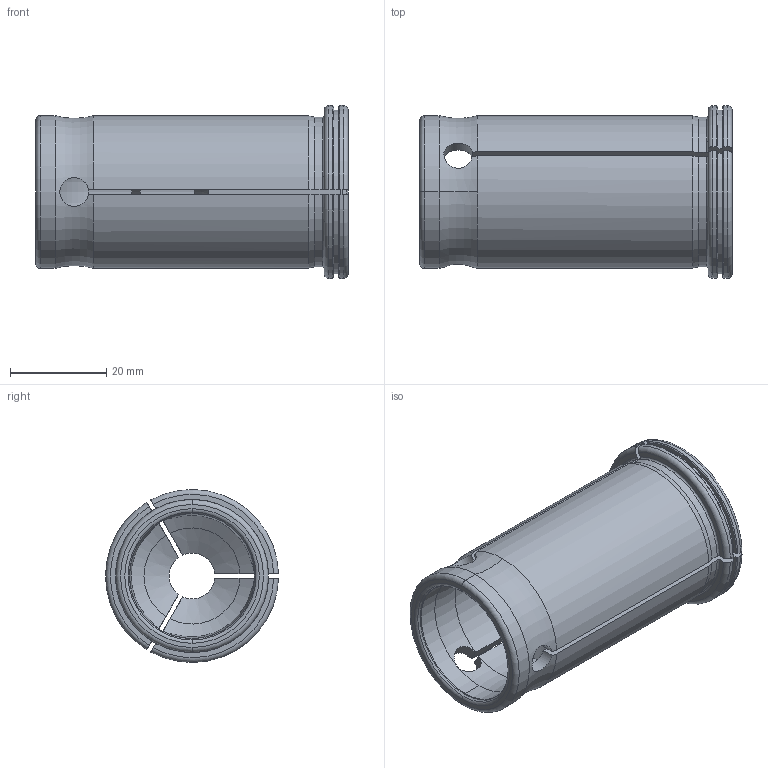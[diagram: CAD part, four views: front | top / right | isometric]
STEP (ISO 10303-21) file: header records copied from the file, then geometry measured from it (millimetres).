
FILE_DESCRIPTION((''),'2;1');
FILE_NAME('K31_75-12_7','2020-09-02T08:21:07',('ssktool'),(''),'CREO PARAMETRIC BY PTC INC, 2018100','CREO PARAMETRIC BY PTC INC, 2018100','');
FILE_SCHEMA(('CONFIG_CONTROL_DESIGN'));
Length unit declared in the file: millimetre
Products named in the file (1): K31_75-12_7
Bounding box: 65 x 35.99 x 36 mm (x, y, z)
Volume: 33042 mm3; surface area: 14038 mm2
Topology: 1 solids, 1 shells, 96 faces, 272 edges, 177 vertices
Faces by surface type: cylinder 31, torus 26, cone 20, plane 19
Entity records: 3562 total; most frequent: CARTESIAN_POINT 1106, ORIENTED_EDGE 544, DIRECTION 478, EDGE_CURVE 272, AXIS2_PLACEMENT_3D 197, VERTEX_POINT 177, CIRCLE 101, EDGE_LOOP 97
